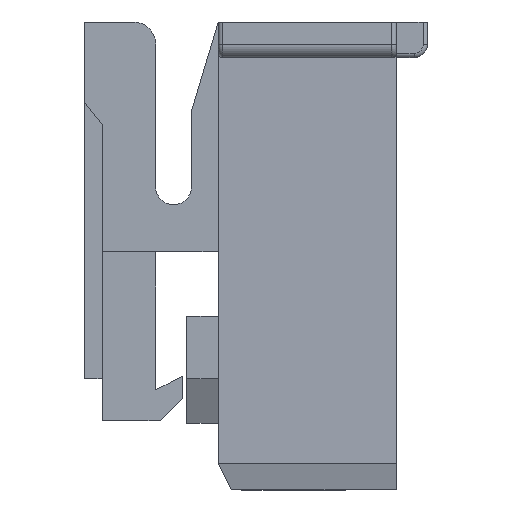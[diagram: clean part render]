
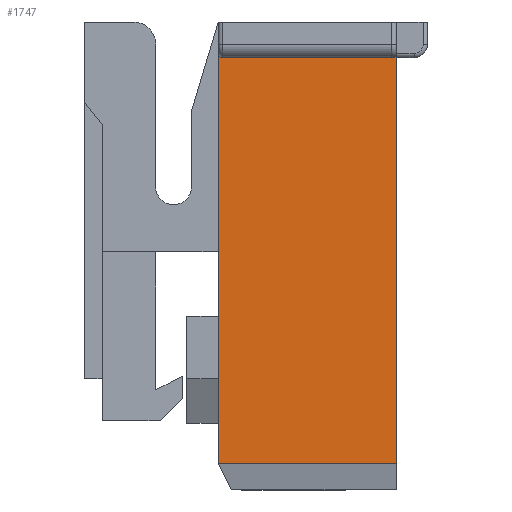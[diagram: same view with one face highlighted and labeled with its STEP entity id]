
A CAD part, left-side view. The second image highlights one B-rep face of the part: STEP entity #1747.
In plain terms, the highlighted planar face has unit normal (-1, 0, -0.011).
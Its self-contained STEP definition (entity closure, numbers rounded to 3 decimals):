
#588=CARTESIAN_POINT('Vertex',(-19.05,4.,0.6)) ;
#591=CARTESIAN_POINT('Line Origine',(-19.101,4.,5.2)) ;
#595=CARTESIAN_POINT('Vertex',(-19.151,4.,9.8)) ;
#1676=CARTESIAN_POINT('Vertex',(-19.15,3.9,9.7)) ;
#1680=CARTESIAN_POINT('Control Point',(-19.15,3.9,9.7)) ;
#1681=CARTESIAN_POINT('Control Point',(-19.15,3.939,9.7)) ;
#1682=CARTESIAN_POINT('Control Point',(-19.15,3.979,9.721)) ;
#1683=CARTESIAN_POINT('Control Point',(-19.151,4.,9.761)) ;
#1684=CARTESIAN_POINT('Control Point',(-19.151,4.,9.8)) ;
#1693=CARTESIAN_POINT('Axis2P3D Location',(-19.05,4.,0.6)) ;
#1698=CARTESIAN_POINT('Line Origine',(-19.05,2.,0.6)) ;
#1702=CARTESIAN_POINT('Vertex',(-19.05,0.,0.6)) ;
#1705=CARTESIAN_POINT('Line Origine',(-19.101,0.,5.2)) ;
#1709=CARTESIAN_POINT('Vertex',(-19.151,0.,9.8)) ;
#1713=CARTESIAN_POINT('Control Point',(-19.15,0.1,9.7)) ;
#1714=CARTESIAN_POINT('Control Point',(-19.15,0.097,9.7)) ;
#1715=CARTESIAN_POINT('Control Point',(-19.15,0.094,9.7)) ;
#1716=CARTESIAN_POINT('Control Point',(-19.15,0.091,9.7)) ;
#1717=CARTESIAN_POINT('Control Point',(-19.15,0.078,9.702)) ;
#1718=CARTESIAN_POINT('Control Point',(-19.15,0.066,9.705)) ;
#1719=CARTESIAN_POINT('Control Point',(-19.15,0.057,9.709)) ;
#1720=CARTESIAN_POINT('Control Point',(-19.15,0.04,9.718)) ;
#1721=CARTESIAN_POINT('Control Point',(-19.15,0.026,9.731)) ;
#1722=CARTESIAN_POINT('Control Point',(-19.15,0.02,9.739)) ;
#1723=CARTESIAN_POINT('Control Point',(-19.151,0.011,9.752)) ;
#1724=CARTESIAN_POINT('Control Point',(-19.151,0.005,9.767)) ;
#1725=CARTESIAN_POINT('Control Point',(-19.151,0.004,9.773)) ;
#1726=CARTESIAN_POINT('Control Point',(-19.151,0.001,9.782)) ;
#1727=CARTESIAN_POINT('Control Point',(-19.151,0.,9.791)) ;
#1728=CARTESIAN_POINT('Control Point',(-19.151,0.,9.794)) ;
#1729=CARTESIAN_POINT('Control Point',(-19.151,0.,9.797)) ;
#1730=CARTESIAN_POINT('Control Point',(-19.151,0.,9.8)) ;
#1731=CARTESIAN_POINT('Vertex',(-19.15,0.1,9.7)) ;
#1734=CARTESIAN_POINT('Line Origine',(-19.15,2.,9.7)) ;
#592=DIRECTION('Vector Direction',(0.011,0.,-1.)) ;
#1694=DIRECTION('Axis2P3D Direction',(1.,0.,0.011)) ;
#1695=DIRECTION('Axis2P3D XDirection',(-0.011,0.,1.)) ;
#1699=DIRECTION('Vector Direction',(0.,-1.,0.)) ;
#1706=DIRECTION('Vector Direction',(-0.011,0.,1.)) ;
#1735=DIRECTION('Vector Direction',(0.,-1.,0.)) ;
#1696=AXIS2_PLACEMENT_3D('Plane Axis2P3D',#1693,#1694,#1695) ;
#1740=ORIENTED_EDGE('',*,*,#597,.T.) ;
#1741=ORIENTED_EDGE('',*,*,#1704,.T.) ;
#1742=ORIENTED_EDGE('',*,*,#1711,.T.) ;
#1743=ORIENTED_EDGE('',*,*,#1733,.F.) ;
#1744=ORIENTED_EDGE('',*,*,#1738,.F.) ;
#1745=ORIENTED_EDGE('',*,*,#1685,.F.) ;
#593=VECTOR('Line Direction',#592,1.) ;
#1700=VECTOR('Line Direction',#1699,1.) ;
#1707=VECTOR('Line Direction',#1706,1.) ;
#1736=VECTOR('Line Direction',#1735,1.) ;
#1747=ADVANCED_FACE('\X2\96F64EF651E04F554F53\X0\',(#1746),#1697,.F.) ;
#1679=B_SPLINE_CURVE_WITH_KNOTS('',4,(#1680,#1681,#1682,#1683,#1684),.UNSPECIFIED.,.F.,.U.,(5,5),(0.,0.221),.UNSPECIFIED.) ;
#1712=B_SPLINE_CURVE_WITH_KNOTS('',5,(#1713,#1714,#1715,#1716,#1717,#1718,#1719,#1720,#1721,#1722,#1723,#1724,#1725,#1726,#1727,#1728,#1729,#1730),.UNSPECIFIED.,.F.,.U.,(6,3,3,3,3,6),(0.,0.022,0.089,0.156,0.2,0.221),.UNSPECIFIED.) ;
#597=EDGE_CURVE('',#596,#589,#594,.T.) ;
#1685=EDGE_CURVE('',#596,#1677,#1679,.F.) ;
#1704=EDGE_CURVE('',#589,#1703,#1701,.T.) ;
#1711=EDGE_CURVE('',#1703,#1710,#1708,.T.) ;
#1733=EDGE_CURVE('',#1732,#1710,#1712,.T.) ;
#1738=EDGE_CURVE('',#1677,#1732,#1737,.T.) ;
#1739=EDGE_LOOP('',(#1740,#1741,#1742,#1743,#1744,#1745)) ;
#1746=FACE_OUTER_BOUND('',#1739,.T.) ;
#594=LINE('Line',#591,#593) ;
#1701=LINE('Line',#1698,#1700) ;
#1708=LINE('Line',#1705,#1707) ;
#1737=LINE('Line',#1734,#1736) ;
#1697=PLANE('Plane',#1696) ;
#589=VERTEX_POINT('',#588) ;
#596=VERTEX_POINT('',#595) ;
#1677=VERTEX_POINT('',#1676) ;
#1703=VERTEX_POINT('',#1702) ;
#1710=VERTEX_POINT('',#1709) ;
#1732=VERTEX_POINT('',#1731) ;
